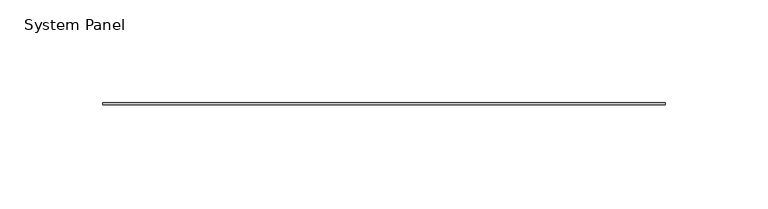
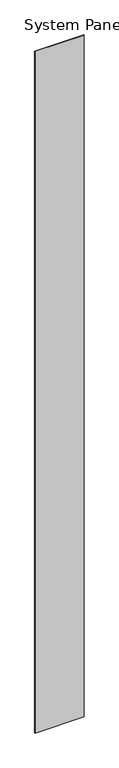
"""IFC4 building model written with IfcOpenShell, lengths in millimetres: plate geometry, System Panel : Stratco_Hiland_Interlock_Panel."""

from ifc_helpers import new_model, si_unit, origin, origin_with_axes, place, context, project, spatial, polyline, outline, extrude, source, transform, mapped, element, save


def system_panel_958ae2cc(model_context):
    return source(origin(), model_context, "Body", "SweptSolid", [
        extrude(outline(polyline([(136.9514014, 24.0), (-136.9514014, 24.0), (-136.9514014, 25.0), (136.9514014, 25.0), (136.9514014, 24.0)])), origin_with_axes(), (0.0, 0.0, 1.0), 4000.0),
    ])


if __name__ == "__main__":
    model = new_model("IFC4")
    model_context = context("Model", 3, world=origin())
    ifc_project = project(units=[si_unit("LENGTHUNIT", "METRE", prefix="MILLI")], contexts=[model_context])
    site = spatial("IfcSite", under=ifc_project)
    building = spatial("IfcBuilding", under=site)
    placement = place(None, origin())
    system_panel_shape = system_panel_958ae2cc(model_context)
    element("IfcPlate", 1, ObjectType="System Panel : Stratco_Hiland_Interlock_Panel", at=placement, inside=building, context=model_context, shape_type="MappedRepresentation", body=[
        mapped(system_panel_shape, transform((0.0, 0.0, 0.0), x_axis=(1.0, 0.0, 0.0), y_axis=(0.0, 1.0, 0.0), z_axis=(0.0, 0.0, 1.0))),
    ])
    save(model, "model.ifc")
